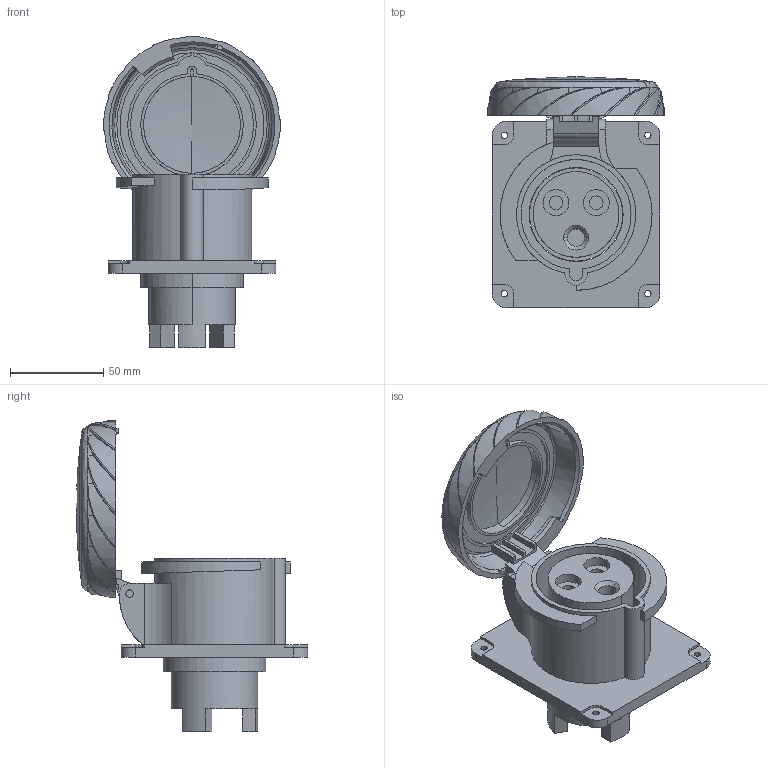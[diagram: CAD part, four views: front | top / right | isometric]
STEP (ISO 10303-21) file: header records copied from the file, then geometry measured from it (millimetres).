
FILE_DESCRIPTION((''),'2;1');
FILE_NAME('PKY32G723_3D-SIMPLIFIED_ASM','2023-02-15T13:05:31',('melanie.cordero'),(''),'CREO PARAMETRIC BY PTC INC, 2018260','CREO PARAMETRIC BY PTC INC, 2018260','');
FILE_SCHEMA(('CONFIG_CONTROL_DESIGN'));
Length unit declared in the file: millimetre
Products named in the file (6): PRT1; PRT2; PRT3; PRT4; PRT5; PKY32G723_3D-SIMPLIFIED_ASM
Assembly tree (5 placements, depth 2):
  PKY32G723_3D-SIMPLIFIED_ASM
    PRT1
    PRT2
    PRT3
    PRT4
    PRT5
Bounding box: 94.9 x 124.03 x 166.95 mm (x, y, z)
Volume: 262110.2 mm3; surface area: 95864.4 mm2
Topology: 5 solids, 5 shells, 340 faces, 945 edges, 623 vertices
Faces by surface type: plane 119, cylinder 115, bspline 74, torus 14, cone 10, sphere 8
Entity records: 16403 total; most frequent: CARTESIAN_POINT 7916, ORIENTED_EDGE 1874, DIRECTION 1630, EDGE_CURVE 937, AXIS2_PLACEMENT_3D 643, VERTEX_POINT 623, EDGE_LOOP 374, CIRCLE 366
